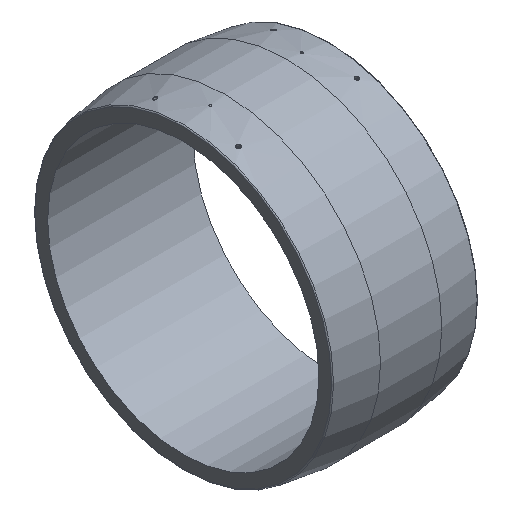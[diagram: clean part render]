
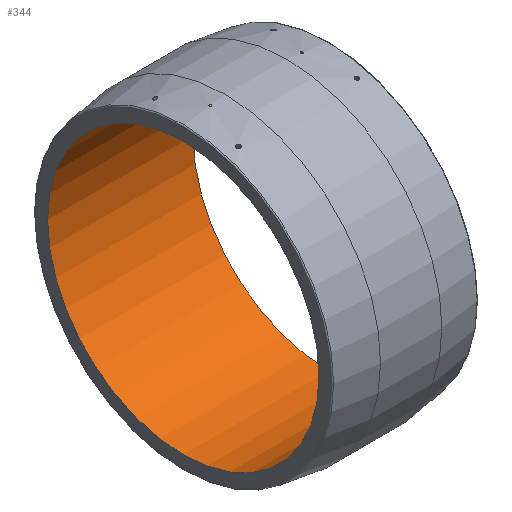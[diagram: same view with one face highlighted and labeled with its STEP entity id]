
A CAD part, isometric view. The second image highlights one B-rep face of the part: STEP entity #344.
In plain terms, the highlighted cylindrical face has radius 500 mm (diameter 1000 mm), a full revolution.
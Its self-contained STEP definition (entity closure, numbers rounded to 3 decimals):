
#44=CIRCLE('',#393,500.);
#45=CIRCLE('',#395,500.);
#72=ORIENTED_EDGE('',*,*,#135,.F.);
#73=ORIENTED_EDGE('',*,*,#134,.T.);
#134=EDGE_CURVE('',#166,#166,#44,.T.);
#135=EDGE_CURVE('',#167,#167,#45,.T.);
#166=VERTEX_POINT('',#631);
#167=VERTEX_POINT('',#634);
#210=EDGE_LOOP('',(#72));
#211=EDGE_LOOP('',(#73));
#274=FACE_BOUND('',#210,.T.);
#275=FACE_BOUND('',#211,.T.);
#329=CYLINDRICAL_SURFACE('',#394,500.);
#344=ADVANCED_FACE('',(#274,#275),#329,.F.);
#393=AXIS2_PLACEMENT_3D('',#630,#453,#454);
#394=AXIS2_PLACEMENT_3D('',#632,#455,#456);
#395=AXIS2_PLACEMENT_3D('',#633,#457,#458);
#453=DIRECTION('',(-1.,0.,0.));
#454=DIRECTION('',(0.,0.,1.));
#455=DIRECTION('',(-1.,0.,0.));
#456=DIRECTION('',(0.,0.,1.));
#457=DIRECTION('',(-1.,0.,0.));
#458=DIRECTION('',(0.,0.,1.));
#630=CARTESIAN_POINT('',(-268.,0.,0.));
#631=CARTESIAN_POINT('',(-268.,0.,500.));
#632=CARTESIAN_POINT('',(-221.69,0.,0.));
#633=CARTESIAN_POINT('',(268.,0.,0.));
#634=CARTESIAN_POINT('',(268.,0.,500.));
